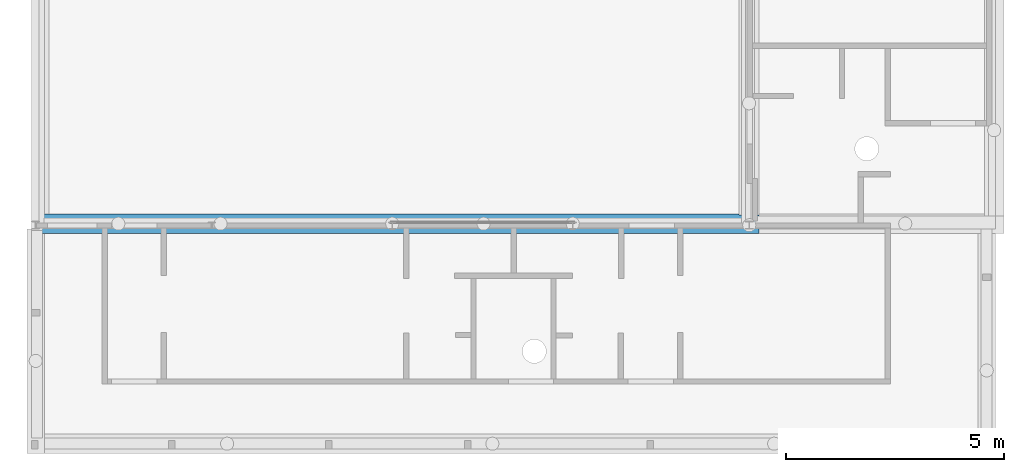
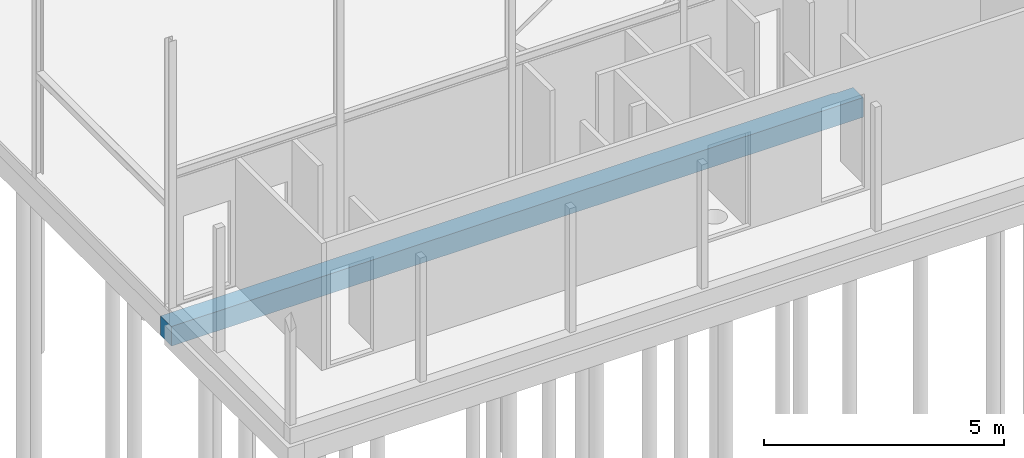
# One storey, part 12 of 17: 1 footing.
"""IFC2X3 building model written with IfcOpenShell, lengths in millimetres."""

from ifc_helpers import new_model, entity, si_unit, converted_unit, derived_unit, direction, frame, origin, place, context, subcontext, project, spatial, faceted_brep, source, transform, mapped, material, type_object, type_shapes, element, save


model = new_model("IFC2X3")

# Units and contexts
model_context = context("Model", 3, precision=0.01, world=origin(), true_north=direction((6.123031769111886e-17, 1.0)))
plan_context = context("Plan", 3, precision=0.01, world=origin(), true_north=direction((6.123031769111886e-17, 1.0)))
body_context = subcontext(model_context, "Body", "Model", "MODEL_VIEW")
ifc_project = project(units=[si_unit("LENGTHUNIT", "METRE", prefix="MILLI"), si_unit("AREAUNIT", "SQUARE_METRE"), si_unit("VOLUMEUNIT", "CUBIC_METRE"), converted_unit("PLANEANGLEUNIT", "DEGREE", entity("IfcPlaneAngleMeasure", 0.017453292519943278), si_unit("PLANEANGLEUNIT", "RADIAN"), dimensions=[0, 0, 0, 0, 0, 0, 0]), si_unit("MASSUNIT", "GRAM", prefix="KILO"), derived_unit("MASSDENSITYUNIT", [(si_unit("MASSUNIT", "GRAM", prefix="KILO"), 1), (si_unit("LENGTHUNIT", "METRE"), -3)]), derived_unit("IONCONCENTRATIONUNIT", [(si_unit("MASSUNIT", "GRAM", prefix="KILO"), 1), (si_unit("LENGTHUNIT", "METRE"), -3)]), derived_unit("MOMENTOFINERTIAUNIT", [(si_unit("LENGTHUNIT", "METRE"), 4)]), si_unit("TIMEUNIT", "SECOND"), si_unit("FREQUENCYUNIT", "HERTZ"), si_unit("THERMODYNAMICTEMPERATUREUNIT", "DEGREE_CELSIUS"), derived_unit("THERMALTRANSMITTANCEUNIT", [(si_unit("MASSUNIT", "GRAM", prefix="KILO"), 1), (si_unit("THERMODYNAMICTEMPERATUREUNIT", "KELVIN"), -1), (si_unit("TIMEUNIT", "SECOND"), -3)]), derived_unit("THERMALCONDUCTANCEUNIT", [(si_unit("MASSUNIT", "GRAM", prefix="KILO"), 1), (si_unit("THERMODYNAMICTEMPERATUREUNIT", "KELVIN"), -1), (si_unit("TIMEUNIT", "SECOND"), -3), (si_unit("LENGTHUNIT", "METRE"), 1)]), derived_unit("VOLUMETRICFLOWRATEUNIT", [(si_unit("LENGTHUNIT", "METRE", prefix="DECI"), 3), (si_unit("TIMEUNIT", "SECOND"), -1)]), derived_unit("MASSFLOWRATEUNIT", [(si_unit("MASSUNIT", "GRAM", prefix="KILO"), 1), (si_unit("TIMEUNIT", "SECOND"), -1)]), derived_unit("ROTATIONALFREQUENCYUNIT", [(si_unit("TIMEUNIT", "SECOND"), -1)]), si_unit("ELECTRICCURRENTUNIT", "AMPERE"), si_unit("ELECTRICVOLTAGEUNIT", "VOLT"), si_unit("POWERUNIT", "WATT"), si_unit("FORCEUNIT", "NEWTON", prefix="KILO"), si_unit("ILLUMINANCEUNIT", "LUX"), si_unit("LUMINOUSFLUXUNIT", "LUMEN"), si_unit("LUMINOUSINTENSITYUNIT", "CANDELA"), si_unit("ENERGYUNIT", "JOULE"), derived_unit("USERDEFINED", [(si_unit("MASSUNIT", "GRAM", prefix="KILO"), -1), (si_unit("LENGTHUNIT", "METRE"), -2), (si_unit("TIMEUNIT", "SECOND"), 3), (si_unit("LUMINOUSFLUXUNIT", "LUMEN"), 1)]), derived_unit("USERDEFINED", [(si_unit("MASSUNIT", "GRAM", prefix="KILO"), 1), (si_unit("TIMEUNIT", "SECOND"), -3), (si_unit("LENGTHUNIT", "METRE"), 3), (si_unit("ELECTRICCURRENTUNIT", "AMPERE"), -2)]), derived_unit("SOUNDPOWERUNIT", [(si_unit("MASSUNIT", "GRAM", prefix="KILO"), 1), (si_unit("TIMEUNIT", "SECOND"), -3), (si_unit("LENGTHUNIT", "METRE"), 2)]), derived_unit("SOUNDPRESSUREUNIT", [(si_unit("MASSUNIT", "GRAM", prefix="KILO"), 1), (si_unit("LENGTHUNIT", "METRE"), -1), (si_unit("TIMEUNIT", "SECOND"), -2)]), derived_unit("LINEARVELOCITYUNIT", [(si_unit("LENGTHUNIT", "METRE"), 1), (si_unit("TIMEUNIT", "SECOND"), -1)]), si_unit("PRESSUREUNIT", "PASCAL"), derived_unit("USERDEFINED", [(si_unit("MASSUNIT", "GRAM", prefix="KILO"), 1), (si_unit("LENGTHUNIT", "METRE"), -2), (si_unit("TIMEUNIT", "SECOND"), -2)]), derived_unit("LINEARFORCEUNIT", [(si_unit("MASSUNIT", "GRAM", prefix="KILO"), 1), (si_unit("TIMEUNIT", "SECOND"), -2)]), derived_unit("PLANARFORCEUNIT", [(si_unit("MASSUNIT", "GRAM", prefix="KILO"), 1), (si_unit("LENGTHUNIT", "METRE"), -1), (si_unit("TIMEUNIT", "SECOND"), -2)]), derived_unit("SPECIFICHEATCAPACITYUNIT", [(si_unit("THERMODYNAMICTEMPERATUREUNIT", "KELVIN"), -1), (si_unit("LENGTHUNIT", "METRE"), 2), (si_unit("TIMEUNIT", "SECOND"), -2)]), derived_unit("HEATFLUXDENSITYUNIT", [(si_unit("MASSUNIT", "GRAM", prefix="KILO"), 1), (si_unit("TIMEUNIT", "SECOND"), -3)]), derived_unit("HEATINGVALUEUNIT", [(si_unit("LENGTHUNIT", "METRE"), 2), (si_unit("TIMEUNIT", "SECOND"), -2)]), derived_unit("VAPORPERMEABILITYUNIT", [(si_unit("LENGTHUNIT", "METRE"), -1), (si_unit("TIMEUNIT", "SECOND"), 1)]), derived_unit("DYNAMICVISCOSITYUNIT", [(si_unit("MASSUNIT", "GRAM", prefix="KILO"), 1), (si_unit("TIMEUNIT", "SECOND"), -1), (si_unit("LENGTHUNIT", "METRE"), -1)]), derived_unit("THERMALEXPANSIONCOEFFICIENTUNIT", [(si_unit("THERMODYNAMICTEMPERATUREUNIT", "KELVIN"), -1)]), derived_unit("MODULUSOFELASTICITYUNIT", [(si_unit("MASSUNIT", "GRAM", prefix="KILO"), 1), (si_unit("LENGTHUNIT", "METRE"), -1), (si_unit("TIMEUNIT", "SECOND"), -2)]), derived_unit("ISOTHERMALMOISTURECAPACITYUNIT", [(si_unit("MASSUNIT", "GRAM", prefix="KILO"), -1), (si_unit("LENGTHUNIT", "METRE"), 3)]), derived_unit("MOISTUREDIFFUSIVITYUNIT", [(si_unit("TIMEUNIT", "SECOND"), -1), (si_unit("LENGTHUNIT", "METRE"), 2)]), derived_unit("MASSPERLENGTHUNIT", [(si_unit("MASSUNIT", "GRAM", prefix="KILO"), 1), (si_unit("LENGTHUNIT", "METRE"), -1)]), derived_unit("THERMALRESISTANCEUNIT", [(si_unit("MASSUNIT", "GRAM", prefix="KILO"), -1), (si_unit("TIMEUNIT", "SECOND"), 3), (si_unit("THERMODYNAMICTEMPERATUREUNIT", "KELVIN"), 1)]), derived_unit("ACCELERATIONUNIT", [(si_unit("LENGTHUNIT", "METRE"), 1), (si_unit("TIMEUNIT", "SECOND"), -2)]), derived_unit("ANGULARVELOCITYUNIT", [(si_unit("TIMEUNIT", "SECOND"), -1), (si_unit("PLANEANGLEUNIT", "RADIAN"), 1)]), derived_unit("LINEARSTIFFNESSUNIT", [(si_unit("MASSUNIT", "GRAM", prefix="KILO"), 1), (si_unit("TIMEUNIT", "SECOND"), -2)]), derived_unit("WARPINGCONSTANTUNIT", [(si_unit("LENGTHUNIT", "METRE"), 6)]), derived_unit("LINEARMOMENTUNIT", [(si_unit("MASSUNIT", "GRAM", prefix="KILO"), 1), (si_unit("LENGTHUNIT", "METRE"), 1), (si_unit("TIMEUNIT", "SECOND"), -2)]), derived_unit("TORQUEUNIT", [(si_unit("MASSUNIT", "GRAM", prefix="KILO"), 1), (si_unit("LENGTHUNIT", "METRE"), 2), (si_unit("TIMEUNIT", "SECOND"), -2)])], contexts=[model_context, plan_context])

# Site, building, storey
site_placement = place(None, origin())
site = spatial("IfcSite", under=ifc_project, at=site_placement, Name="Default", CompositionType="ELEMENT")
building_placement = place(site_placement, origin())
building = spatial("IfcBuilding", under=site, at=building_placement, CompositionType="ELEMENT")
storey_placement = place(building_placement, origin())
storey = spatial("IfcBuildingStorey", under=building, at=storey_placement, Name="00 begane grond", CompositionType="ELEMENT", Elevation=0.0)

# Footing
ifc_material = material(Name="ihwg beton")
type_product = type_object("IfcTypeProduct", Name="16_SF_LIB_funderingsbalk_dw:450x500 (ihwg)", material=ifc_material)
shared_shape = source(origin(), body_context, "Body", "Brep", [
    faceted_brep([(0.0, 0.0, -500.0), (0.0, 0.0, 0.0), (0.0, 69.49983235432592, 0.0), (0.0, 105.0, 0.0), (0.0, 450.0, 0.0), (0.0, 450.0, -500.0), (0.0, 105.0, -500.0), (16650.0, 425.0, -500.0), (16650.0, 425.0, 0.0), (16650.0, 0.0, 0.0), (16650.0, 0.0, -500.0), (300.0, 0.0, 0.0), (16200.0, 425.0, 0.0), (16200.0, 450.0, 0.0), (400.0, 450.0, 0.0), (400.0, 450.0, -500.0), (16200.0, 450.0, -500.0), (1915.0, 354.9038105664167, -500.0), (1951.177143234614, 369.8888739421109, -500.0), (1990.0, 374.99999999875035, -500.0), (1860.0961894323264, 299.99999999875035, -500.0), (1883.9339828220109, 331.0660171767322, -500.0), (4329.999999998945, 374.99999999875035, -500.0), (4223.933982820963, 331.0660171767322, -500.0), (2065.0, 354.9038105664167, -500.0), (4254.999999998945, 354.9038105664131, -500.0), (2028.8228567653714, 369.8888739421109, -500.0), (1840.0, 224.99999999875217, -500.0), (1845.1111260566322, 263.822856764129, -500.0), (4291.177143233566, 369.8888739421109, -500.0), (8260.000000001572, 374.99999999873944, -500.0), (8221.177143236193, 369.88887394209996, -500.0), (4368.822856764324, 369.8888739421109, -500.0), (8185.000000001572, 354.9038105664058, -500.0), (4404.999999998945, 354.9038105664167, -500.0), (8153.9339828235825, 331.0660171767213, -500.0), (10275.0, 354.9038105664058, -500.0), (8335.000000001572, 354.9038105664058, -500.0), (8298.822856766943, 369.88887394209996, -500.0), (10311.177143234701, 369.8888739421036, -500.0), (2096.0660171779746, 331.0660171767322, -500.0), (2119.903810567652, 299.99999999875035, -500.0), (4200.096189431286, 299.99999999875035, -500.0), (2134.8888739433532, 263.822856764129, -500.0), (4185.1111260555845, 263.822856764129, -500.0), (4179.999999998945, 224.99999999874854, -500.0), (8130.096189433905, 299.99999999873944, -500.0), (4459.903810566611, 299.99999999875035, -500.0), (4436.066017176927, 331.0660171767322, -500.0), (10220.096189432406, 299.9999999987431, -500.0), (8389.903810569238, 299.99999999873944, -500.0), (8366.066017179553, 331.0660171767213, -500.0), (8115.111126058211, 263.8228567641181, -500.0), (4474.8888739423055, 263.822856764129, -500.0), (8110.000000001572, 224.99999999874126, -500.0), (10200.0, 224.99999999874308, -500.0), (8410.000000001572, 224.99999999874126, -500.0), (8404.888873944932, 263.8228567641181, -500.0), (8404.888873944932, 186.17714323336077, -500.0), (4479.999999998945, 224.99999999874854, -500.0), (10205.111126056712, 263.82285676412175, -500.0), (10243.933982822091, 331.0660171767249, -500.0), (10350.0, 374.9999999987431, -500.0), (10388.822856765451, 369.8888739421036, -500.0), (12351.177143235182, 369.8888739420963, -500.0), (10425.0, 354.90381056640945, -500.0), (12390.0, 374.9999999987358, -500.0), (12283.933982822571, 331.06601717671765, -500.0), (10456.066017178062, 331.0660171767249, -500.0), (12315.0, 354.90381056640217, -500.0), (12428.822856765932, 369.8888739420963, -500.0), (12540.0, 224.9999999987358, -500.0), (16200.0, 425.0, -500.0), (16430.00000000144, 340.5001233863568, -500.0), (16391.177143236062, 335.3889973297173, -500.0), (12465.0, 354.90381056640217, -500.0), (16355.00000000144, 320.4039339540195, -500.0), (16468.822856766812, 335.3889973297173, -500.0), (12519.903810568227, 299.9999999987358, -500.0), (12496.066017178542, 331.06601717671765, -500.0), (16505.00000000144, 320.40393395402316, -500.0), (10479.90381056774, 299.9999999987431, -500.0), (12260.096189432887, 299.9999999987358, -500.0), (10494.888873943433, 263.82285676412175, -500.0), (10500.0, 224.99999999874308, -500.0), (12245.111126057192, 263.8228567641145, -500.0), (16323.933982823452, 296.56614056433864, -500.0), (16300.096189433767, 265.5001233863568, -500.0), (16536.066017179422, 296.56614056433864, -500.0), (12534.888873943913, 263.8228567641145, -500.0), (16285.11112605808, 229.32298015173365, -500.0), (16574.8888739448, 229.32298015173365, -500.0), (16559.903810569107, 265.5001233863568, -500.0), (16280.000000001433, 190.50012338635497, -500.0), (12240.0, 224.9999999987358, -500.0), (16580.00000000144, 190.50012338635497, -500.0), (4474.8888739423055, 186.17714323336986, -500.0), (2140.0, 224.99999999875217, -500.0), (2134.8888739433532, 186.17714323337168, -500.0), (4185.1111260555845, 186.17714323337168, -500.0), (300.0, 0.0, -500.0), (1845.1111260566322, 186.17714323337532, -500.0), (1860.0961894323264, 149.999999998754, -500.0), (4200.096189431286, 149.99999999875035, -500.0), (2119.903810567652, 149.99999999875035, -500.0), (2096.0660171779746, 118.9339828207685, -500.0), (8115.111126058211, 186.1771432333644, -500.0), (4459.903810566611, 149.99999999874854, -500.0), (8130.096189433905, 149.99999999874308, -500.0), (4436.066017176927, 118.93398282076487, -500.0), (4223.933982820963, 118.9339828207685, -500.0), (8153.9339828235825, 118.93398282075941, -500.0), (4404.999999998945, 95.09618943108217, -500.0), (10220.096189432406, 149.9999999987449, -500.0), (8366.066017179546, 118.93398282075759, -500.0), (8389.903810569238, 149.99999999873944, -500.0), (2065.0, 95.09618943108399, -500.0), (1883.9339828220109, 118.93398282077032, -500.0), (1915.0, 95.0961894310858, -500.0), (4254.999999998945, 95.09618943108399, -500.0), (1951.177143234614, 80.11112605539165, -500.0), (1990.0, 74.99999999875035, -500.0), (4291.177143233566, 80.11112605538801, -500.0), (2028.8228567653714, 80.11112605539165, -500.0), (4329.999999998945, 74.99999999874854, -500.0), (8185.000000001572, 95.09618943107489, -500.0), (4368.822856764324, 80.11112605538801, -500.0), (10275.0, 95.09618943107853, -500.0), (8298.822856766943, 80.11112605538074, -500.0), (8335.000000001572, 95.09618943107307, -500.0), (8221.177143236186, 80.11112605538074, -500.0), (8260.000000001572, 74.99999999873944, -500.0), (10311.177143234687, 80.11112605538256, -500.0), (10243.933982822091, 118.93398282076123, -500.0), (10205.111126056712, 186.17714323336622, -500.0), (12245.111126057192, 186.17714323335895, -500.0), (10494.888873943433, 186.1771432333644, -500.0), (12260.096189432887, 149.99999999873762, -500.0), (10479.90381056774, 149.99999999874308, -500.0), (10456.066017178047, 118.93398282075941, -500.0), (12283.933982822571, 118.93398282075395, -500.0), (12534.888873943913, 186.17714323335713, -500.0), (16285.11112605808, 151.67726662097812, -500.0), (12519.903810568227, 149.9999999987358, -500.0), (16300.096189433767, 115.50012338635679, -500.0), (12496.066017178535, 118.93398282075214, -500.0), (16574.8888739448, 151.6772666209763, -500.0), (12315.0, 95.09618943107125, -500.0), (10425.0, 95.09618943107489, -500.0), (12351.177143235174, 80.11112605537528, -500.0), (16323.933982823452, 84.43410620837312, -500.0), (12465.0, 95.09618943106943, -500.0), (12390.0, 74.9999999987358, -500.0), (10350.0, 74.99999999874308, -500.0), (10388.822856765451, 80.11112605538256, -500.0), (12428.822856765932, 80.11112605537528, -500.0), (16355.00000000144, 60.59631281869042, -500.0), (16536.066017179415, 84.4341062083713, -500.0), (16559.903810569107, 115.50012338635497, -500.0), (16391.177143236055, 45.61124944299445, -500.0), (16430.00000000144, 40.50012338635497, -500.0), (16468.822856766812, 45.61124944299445, -500.0), (16505.00000000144, 60.5963128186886, -500.0), (2065.0, 95.09618943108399, -480.0), (2028.8228567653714, 80.11112605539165, -480.0), (1990.0, 74.99999999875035, -480.0), (1951.177143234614, 80.11112605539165, -480.0), (1915.0, 95.0961894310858, -480.0), (1883.9339828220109, 118.93398282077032, -480.0), (1860.0961894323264, 149.99999999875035, -480.0), (1845.1111260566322, 186.17714323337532, -480.0), (1840.0, 224.99999999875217, -480.0), (1845.1111260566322, 263.822856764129, -480.0), (1860.0961894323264, 299.99999999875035, -480.0), (1883.9339828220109, 331.0660171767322, -480.0), (1915.0, 354.9038105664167, -480.0), (1951.177143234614, 369.8888739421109, -480.0), (1990.0, 374.99999999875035, -480.0), (2028.8228567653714, 369.8888739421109, -480.0), (2065.0, 354.9038105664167, -480.0), (2096.0660171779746, 331.0660171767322, -480.0), (2119.903810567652, 299.99999999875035, -480.0), (2134.8888739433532, 263.822856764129, -480.0), (2140.0, 224.99999999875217, -480.0), (2134.8888739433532, 186.17714323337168, -480.0), (2119.903810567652, 149.99999999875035, -480.0), (2096.0660171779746, 118.9339828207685, -480.0), (4404.999999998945, 95.09618943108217, -480.0), (4368.822856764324, 80.11112605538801, -480.0), (4329.999999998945, 74.99999999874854, -480.0), (4291.177143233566, 80.11112605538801, -480.0), (4254.999999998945, 95.09618943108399, -480.0), (4223.933982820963, 118.9339828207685, -480.0), (4200.096189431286, 149.99999999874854, -480.0), (4185.1111260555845, 186.17714323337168, -480.0), (4179.999999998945, 224.99999999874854, -480.0), (4185.1111260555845, 263.822856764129, -480.0), (4200.096189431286, 299.99999999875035, -480.0), (4223.933982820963, 331.0660171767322, -480.0), (4254.999999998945, 354.9038105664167, -480.0), (4291.177143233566, 369.8888739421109, -480.0), (4329.999999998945, 374.99999999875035, -480.0), (4368.822856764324, 369.8888739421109, -480.0), (4404.999999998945, 354.9038105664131, -480.0), (4436.066017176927, 331.0660171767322, -480.0), (4459.903810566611, 299.99999999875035, -480.0), (4474.8888739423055, 263.822856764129, -480.0), (4479.999999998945, 224.99999999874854, -480.0), (4474.8888739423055, 186.17714323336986, -480.0), (4459.903810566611, 149.99999999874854, -480.0), (4436.066017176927, 118.93398282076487, -480.0), (8335.000000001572, 95.09618943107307, -480.0), (8298.822856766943, 80.11112605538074, -480.0), (8260.000000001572, 74.99999999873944, -480.0), (8221.177143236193, 80.11112605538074, -480.0), (8185.000000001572, 95.09618943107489, -480.0), (8153.9339828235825, 118.93398282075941, -480.0), (8130.096189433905, 149.99999999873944, -480.0), (8115.111126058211, 186.1771432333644, -480.0), (8110.000000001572, 224.99999999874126, -480.0), (8115.111126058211, 263.8228567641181, -480.0), (8130.096189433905, 299.99999999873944, -480.0), (8153.933982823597, 331.0660171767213, -480.0), (8185.000000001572, 354.9038105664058, -480.0), (8221.177143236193, 369.88887394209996, -480.0), (8260.000000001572, 374.99999999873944, -480.0), (8298.822856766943, 369.88887394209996, -480.0), (8335.000000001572, 354.9038105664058, -480.0), (8366.066017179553, 331.0660171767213, -480.0), (8389.903810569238, 299.99999999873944, -480.0), (8404.888873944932, 263.8228567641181, -480.0), (8410.000000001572, 224.99999999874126, -480.0), (8404.888873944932, 186.17714323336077, -480.0), (8389.903810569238, 149.99999999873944, -480.0), (8366.066017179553, 118.93398282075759, -480.0), (12465.0, 95.09618943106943, -480.0), (12428.822856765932, 80.11112605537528, -480.0), (12390.0, 74.9999999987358, -480.0), (12351.177143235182, 80.11112605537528, -480.0), (12315.0, 95.09618943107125, -480.0), (12283.933982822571, 118.93398282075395, -480.0), (12260.096189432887, 149.9999999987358, -480.0), (12245.111126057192, 186.17714323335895, -480.0), (12240.0, 224.9999999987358, -480.0), (12245.111126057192, 263.8228567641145, -480.0), (12260.096189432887, 299.9999999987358, -480.0), (12283.933982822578, 331.06601717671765, -480.0), (12315.0, 354.90381056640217, -480.0), (12351.177143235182, 369.8888739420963, -480.0), (12390.0, 374.9999999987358, -480.0), (12428.822856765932, 369.8888739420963, -480.0), (12465.0, 354.90381056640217, -480.0), (12496.066017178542, 331.06601717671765, -480.0), (12519.903810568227, 299.9999999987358, -480.0), (12534.888873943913, 263.8228567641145, -480.0), (12540.0, 224.9999999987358, -480.0), (12534.888873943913, 186.17714323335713, -480.0), (12519.903810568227, 149.9999999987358, -480.0), (12496.066017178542, 118.93398282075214, -480.0), (16505.00000000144, 60.5963128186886, -480.0), (16468.822856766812, 45.61124944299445, -480.0), (16430.00000000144, 40.50012338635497, -480.0), (16391.177143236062, 45.61124944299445, -480.0), (16355.00000000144, 60.59631281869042, -480.0), (16323.933982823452, 84.43410620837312, -480.0), (16300.096189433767, 115.50012338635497, -480.0), (16285.11112605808, 151.67726662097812, -480.0), (16280.000000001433, 190.50012338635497, -480.0), (16285.11112605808, 229.32298015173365, -480.0), (16300.096189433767, 265.5001233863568, -480.0), (16323.933982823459, 296.56614056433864, -480.0), (16355.00000000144, 320.40393395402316, -480.0), (16391.177143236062, 335.3889973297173, -480.0), (16430.00000000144, 340.5001233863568, -480.0), (16468.822856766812, 335.3889973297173, -480.0), (16505.00000000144, 320.4039339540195, -480.0), (16536.066017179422, 296.56614056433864, -480.0), (16559.903810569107, 265.5001233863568, -480.0), (16574.8888739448, 229.32298015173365, -480.0), (16580.00000000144, 190.50012338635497, -480.0), (16574.8888739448, 151.6772666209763, -480.0), (16559.903810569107, 115.50012338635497, -480.0), (16536.066017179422, 84.4341062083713, -480.0), (10425.0, 95.09618943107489, -480.0), (10388.822856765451, 80.11112605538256, -480.0), (10350.0, 74.99999999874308, -480.0), (10311.177143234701, 80.11112605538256, -480.0), (10275.0, 95.09618943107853, -480.0), (10243.933982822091, 118.93398282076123, -480.0), (10220.096189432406, 149.99999999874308, -480.0), (10205.111126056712, 186.17714323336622, -480.0), (10200.0, 224.99999999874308, -480.0), (10205.111126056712, 263.82285676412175, -480.0), (10220.096189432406, 299.9999999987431, -480.0), (10243.933982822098, 331.0660171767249, -480.0), (10275.0, 354.90381056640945, -480.0), (10311.177143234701, 369.8888739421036, -480.0), (10350.0, 374.9999999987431, -480.0), (10388.822856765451, 369.8888739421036, -480.0), (10425.0, 354.9038105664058, -480.0), (10456.066017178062, 331.0660171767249, -480.0), (10479.90381056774, 299.9999999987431, -480.0), (10494.888873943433, 263.82285676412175, -480.0), (10500.0, 224.99999999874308, -480.0), (10494.888873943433, 186.1771432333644, -480.0), (10479.90381056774, 149.99999999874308, -480.0), (10456.066017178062, 118.93398282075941, -480.0)], [[[0, 1, 2, 3, 4, 5, 6]], [[7, 8, 9, 10]], [[11, 9, 8, 12, 13, 14, 4, 3, 2, 1]], [[15, 5, 4, 14, 13, 16]], [[17, 15, 18]], [[15, 19, 18]], [[20, 15, 21]], [[22, 19, 15]], [[15, 17, 21]], [[23, 24, 25]], [[25, 24, 26]], [[27, 15, 28]], [[29, 26, 19]], [[19, 22, 29]], [[30, 31, 22]], [[32, 22, 31]], [[32, 31, 33]], [[15, 30, 22]], [[34, 32, 33]], [[34, 33, 35]], [[36, 37, 38]], [[25, 26, 29]], [[39, 38, 30]], [[23, 40, 24]], [[16, 30, 15]], [[41, 40, 42]], [[23, 42, 40]], [[43, 41, 44]], [[44, 41, 42]], [[43, 44, 45]], [[28, 15, 20]], [[46, 47, 48]], [[48, 35, 46]], [[49, 50, 51]], [[46, 52, 47]], [[52, 53, 47]], [[53, 52, 54]], [[55, 56, 57]], [[55, 58, 56]], [[59, 53, 54]], [[60, 57, 50]], [[34, 35, 48]], [[6, 5, 15]], [[61, 51, 37]], [[30, 62, 39]], [[63, 64, 65]], [[66, 63, 62]], [[64, 63, 66]], [[67, 68, 69]], [[65, 69, 68]], [[64, 69, 65]], [[36, 38, 39]], [[16, 70, 66]], [[71, 16, 72]], [[72, 73, 74]], [[70, 16, 75]], [[62, 16, 66]], [[74, 76, 72]], [[7, 73, 72]], [[7, 77, 73]], [[16, 78, 79]], [[79, 75, 16]], [[80, 77, 7]], [[81, 68, 67]], [[30, 16, 62]], [[51, 61, 49]], [[81, 82, 83]], [[81, 67, 82]], [[57, 60, 55]], [[84, 83, 85]], [[82, 85, 83]], [[60, 50, 49]], [[72, 76, 86]], [[86, 87, 72]], [[7, 88, 80]], [[78, 16, 89]], [[72, 87, 90]], [[71, 89, 16]], [[7, 91, 92]], [[93, 72, 90]], [[7, 92, 88]], [[85, 94, 84]], [[61, 37, 36]], [[95, 91, 7]], [[59, 54, 96]], [[97, 45, 98]], [[43, 45, 97]], [[45, 99, 98]], [[100, 101, 102]], [[103, 104, 99]], [[99, 104, 98]], [[27, 101, 15]], [[105, 104, 103]], [[106, 107, 96]], [[107, 106, 108]], [[108, 109, 107]], [[96, 54, 106]], [[105, 103, 110]], [[111, 109, 108]], [[112, 109, 111]], [[113, 114, 115]], [[110, 116, 105]], [[100, 117, 118]], [[101, 100, 15]], [[117, 100, 102]], [[110, 119, 116]], [[118, 120, 100]], [[100, 120, 121]], [[122, 121, 123]], [[121, 124, 100]], [[0, 6, 100]], [[119, 123, 116]], [[112, 125, 126]], [[125, 112, 111]], [[127, 128, 129]], [[121, 122, 124]], [[130, 124, 126]], [[126, 125, 130]], [[131, 124, 130]], [[131, 100, 124]], [[122, 123, 119]], [[132, 131, 128]], [[131, 10, 100]], [[100, 6, 15]], [[133, 129, 114]], [[134, 115, 58]], [[94, 135, 84]], [[135, 136, 84]], [[134, 58, 55]], [[113, 115, 134]], [[136, 137, 138]], [[136, 135, 137]], [[139, 138, 140]], [[114, 113, 133]], [[141, 72, 142]], [[142, 72, 93]], [[142, 143, 141]], [[141, 71, 72]], [[138, 137, 140]], [[143, 142, 144]], [[143, 144, 145]], [[10, 146, 95]], [[140, 147, 139]], [[127, 129, 133]], [[148, 147, 149]], [[147, 148, 139]], [[145, 150, 151]], [[152, 153, 154]], [[154, 149, 152]], [[10, 152, 155]], [[152, 10, 153]], [[154, 148, 149]], [[127, 132, 128]], [[156, 155, 151]], [[150, 145, 144]], [[10, 157, 158]], [[156, 151, 150]], [[10, 159, 160]], [[10, 161, 162]], [[160, 161, 10]], [[157, 10, 162]], [[10, 155, 159]], [[159, 155, 156]], [[146, 10, 158]], [[10, 131, 153]], [[132, 153, 131]], [[7, 10, 95]], [[11, 1, 0, 100, 10, 9]], [[13, 12, 72, 16]], [[72, 12, 8, 7]], [[163, 164, 165, 166, 167, 168, 169, 170, 171, 172, 173, 174, 175, 176, 177, 178, 179, 180, 181, 182, 183, 184, 185, 186]], [[187, 188, 189, 190, 191, 192, 193, 194, 195, 196, 197, 198, 199, 200, 201, 202, 203, 204, 205, 206, 207, 208, 209, 210]], [[211, 212, 213, 214, 215, 216, 217, 218, 219, 220, 221, 222, 223, 224, 225, 226, 227, 228, 229, 230, 231, 232, 233, 234]], [[235, 236, 237, 238, 239, 240, 241, 242, 243, 244, 245, 246, 247, 248, 249, 250, 251, 252, 253, 254, 255, 256, 257, 258]], [[259, 260, 261, 262, 263, 264, 265, 266, 267, 268, 269, 270, 271, 272, 273, 274, 275, 276, 277, 278, 279, 280, 281, 282]], [[283, 284, 285, 286, 287, 288, 289, 290, 291, 292, 293, 294, 295, 296, 297, 298, 299, 300, 301, 302, 303, 304, 305, 306]], [[27, 171, 170, 101]], [[101, 170, 169, 102]], [[118, 117, 168, 167]], [[117, 102, 169, 168]], [[166, 120, 118, 167]], [[120, 166, 165, 121]], [[116, 123, 164, 163]], [[116, 163, 186, 105]], [[98, 104, 185, 184]], [[185, 104, 105, 186]], [[183, 97, 98, 184]], [[121, 165, 164, 123]], [[97, 183, 182, 43]], [[43, 182, 181, 41]], [[24, 40, 180, 179]], [[41, 181, 180, 40]], [[24, 179, 178, 26]], [[26, 178, 177, 19]], [[18, 19, 177, 176]], [[18, 176, 175, 17]], [[20, 21, 174, 173]], [[17, 175, 174, 21]], [[20, 173, 172, 28]], [[27, 28, 172, 171]], [[45, 195, 194, 99]], [[99, 194, 193, 103]], [[119, 110, 192, 191]], [[110, 103, 193, 192]], [[190, 122, 119, 191]], [[122, 190, 189, 124]], [[112, 126, 188, 187]], [[112, 187, 210, 109]], [[96, 107, 209, 208]], [[209, 107, 109, 210]], [[207, 59, 96, 208]], [[124, 189, 188, 126]], [[59, 207, 206, 53]], [[53, 206, 205, 47]], [[34, 48, 204, 203]], [[47, 205, 204, 48]], [[34, 203, 202, 32]], [[32, 202, 201, 22]], [[29, 22, 201, 200]], [[29, 200, 199, 25]], [[42, 23, 198, 197]], [[25, 199, 198, 23]], [[42, 197, 196, 44]], [[45, 44, 196, 195]], [[54, 219, 218, 106]], [[106, 218, 217, 108]], [[125, 111, 216, 215]], [[111, 108, 217, 216]], [[214, 130, 125, 215]], [[130, 214, 213, 131]], [[129, 128, 212, 211]], [[129, 211, 234, 114]], [[58, 115, 233, 232]], [[233, 115, 114, 234]], [[231, 56, 58, 232]], [[131, 213, 212, 128]], [[56, 231, 230, 57]], [[57, 230, 229, 50]], [[37, 51, 228, 227]], [[51, 50, 229, 228]], [[226, 38, 37, 227]], [[38, 226, 225, 30]], [[31, 30, 225, 224]], [[31, 224, 223, 33]], [[46, 35, 222, 221]], [[33, 223, 222, 35]], [[46, 221, 220, 52]], [[54, 52, 220, 219]], [[94, 243, 242, 135]], [[135, 242, 241, 137]], [[147, 140, 240, 239]], [[140, 137, 241, 240]], [[238, 149, 147, 239]], [[149, 238, 237, 152]], [[151, 155, 236, 235]], [[151, 235, 258, 145]], [[141, 143, 257, 256]], [[257, 143, 145, 258]], [[255, 71, 141, 256]], [[152, 237, 236, 155]], [[71, 255, 254, 89]], [[89, 254, 253, 78]], [[75, 79, 252, 251]], [[79, 78, 253, 252]], [[250, 70, 75, 251]], [[70, 250, 249, 66]], [[64, 66, 249, 248]], [[64, 248, 247, 69]], [[82, 67, 246, 245]], [[69, 247, 246, 67]], [[82, 245, 244, 85]], [[94, 85, 244, 243]], [[93, 267, 266, 142]], [[142, 266, 265, 144]], [[156, 150, 264, 263]], [[150, 144, 265, 264]], [[262, 159, 156, 263]], [[159, 262, 261, 160]], [[162, 161, 260, 259]], [[162, 259, 282, 157]], [[146, 158, 281, 280]], [[281, 158, 157, 282]], [[279, 95, 146, 280]], [[160, 261, 260, 161]], [[95, 279, 278, 91]], [[91, 278, 277, 92]], [[80, 88, 276, 275]], [[88, 92, 277, 276]], [[274, 77, 80, 275]], [[77, 274, 273, 73]], [[74, 73, 273, 272]], [[74, 272, 271, 76]], [[87, 86, 270, 269]], [[76, 271, 270, 86]], [[87, 269, 268, 90]], [[93, 90, 268, 267]], [[55, 291, 290, 134]], [[134, 290, 289, 113]], [[127, 133, 288, 287]], [[133, 113, 289, 288]], [[286, 132, 127, 287]], [[132, 286, 285, 153]], [[148, 154, 284, 283]], [[148, 283, 306, 139]], [[136, 138, 305, 304]], [[305, 138, 139, 306]], [[303, 84, 136, 304]], [[153, 285, 284, 154]], [[84, 303, 302, 83]], [[83, 302, 301, 81]], [[65, 68, 300, 299]], [[68, 81, 301, 300]], [[298, 63, 65, 299]], [[63, 298, 297, 62]], [[39, 62, 297, 296]], [[39, 296, 295, 36]], [[49, 61, 294, 293]], [[36, 295, 294, 61]], [[49, 293, 292, 60]], [[55, 60, 292, 291]]]),
])
type_shapes(type_product, [shared_shape])
footing_placement = place(storey_placement, frame((34066.19293735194, 16147.670340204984, -470.0)))
element("IfcFooting", 1, at=footing_placement, inside=storey, type_object=type_product, material=ifc_material, Name="16_SF_LIB_funderingsbalk_dw:450x500 (ihwg)", ObjectType="16_SF_LIB_funderingsbalk_dw:450x500 (ihwg)", context=body_context, shape_type="MappedRepresentation", body=[
    mapped(shared_shape, transform((0.0, 0.0, 0.0), scale=1.0)),
])

save(model, "model.ifc")
